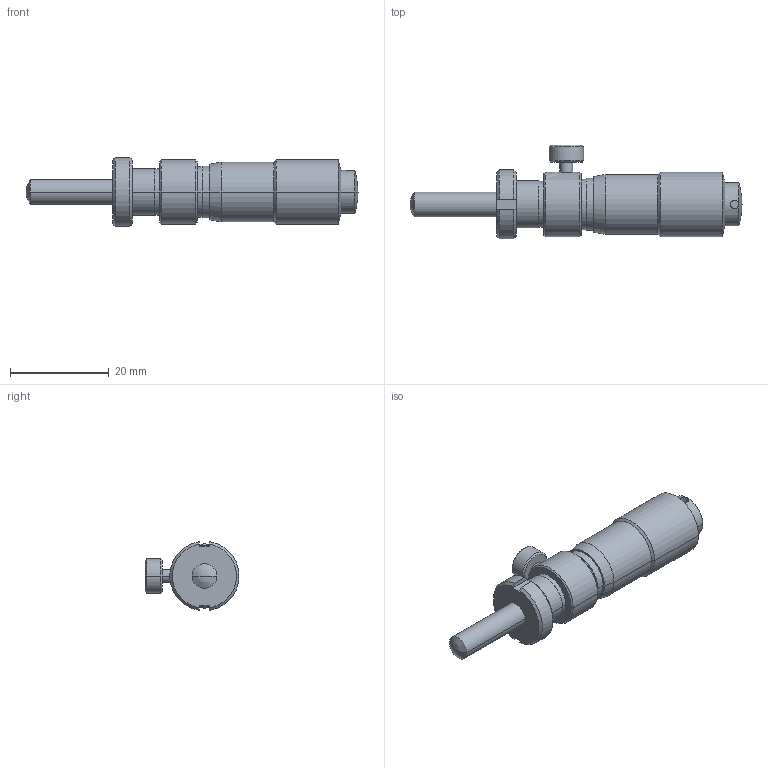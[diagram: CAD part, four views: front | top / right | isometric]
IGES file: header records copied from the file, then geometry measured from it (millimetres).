
Start section: Elysium IGES Interface
Global section: file name: 70HR:\01_商品設計部\01_MK外ﾃｰﾏ(U)\15_MH_3D\IGESﾌｧｲﾙ\148-153_MHS4-13LC.igs; native system: Creo Elements/Direct Modeling 18.1B  29-Sep-2012; preprocessor: Creo Element/Direct IGES_3D V2.2; author: Unknown; organization: Unknown; date: 20140624.081530; units: millimetre
Bounding box: 67.1 x 18.98 x 13.86 mm (x, y, z)
Volume: 6113 mm3; surface area: 2740.5 mm2
Topology: 1 solids, 1 shells, 65 faces, 143 edges, 86 vertices
Faces by surface type: bspline 65
